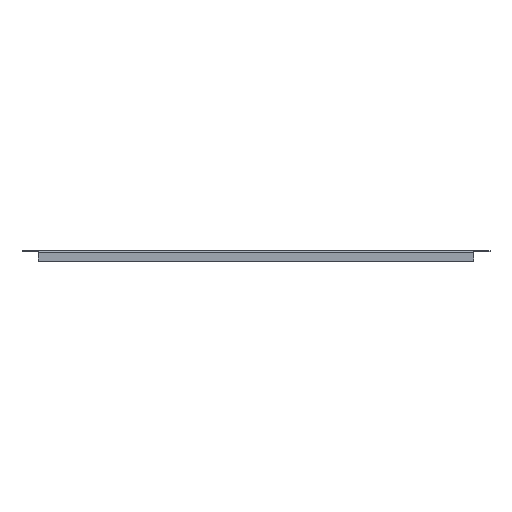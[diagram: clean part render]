
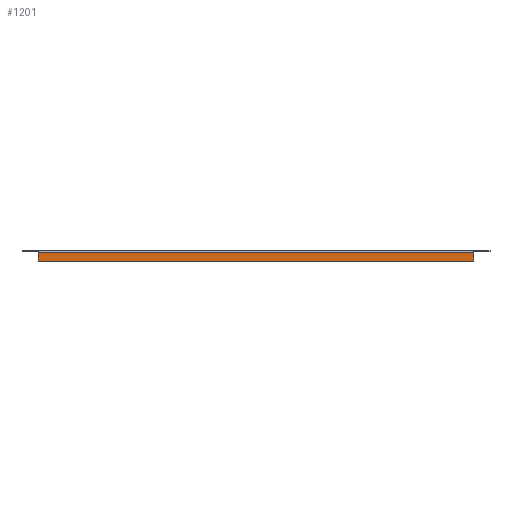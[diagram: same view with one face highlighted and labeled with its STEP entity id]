
A CAD part, front view. The second image highlights one B-rep face of the part: STEP entity #1201.
In plain terms, the highlighted planar face has unit normal (0, -1, 0).
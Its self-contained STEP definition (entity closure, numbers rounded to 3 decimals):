
#4 = ORIENTED_EDGE ( 'NONE', *, *, #1141, .F. ) ;
#12 = ORIENTED_EDGE ( 'NONE', *, *, #1149, .F. ) ;
#16 = ORIENTED_EDGE ( 'NONE', *, *, #1144, .F. ) ;
#19 = ORIENTED_EDGE ( 'NONE', *, *, #1146, .F. ) ;
#101 = VECTOR ( 'NONE', #764, 1000. ) ;
#144 = VECTOR ( 'NONE', #788, 1000. ) ;
#187 = VECTOR ( 'NONE', #779, 1000. ) ;
#188 = VECTOR ( 'NONE', #773, 1000. ) ;
#210 = AXIS2_PLACEMENT_3D ( 'NONE', #918, #919, #920 ) ;
#217 = FACE_OUTER_BOUND ( 'NONE', #408, .T. ) ;
#335 = VERTEX_POINT ( 'NONE', #651 ) ;
#339 = VERTEX_POINT ( 'NONE', #655 ) ;
#341 = VERTEX_POINT ( 'NONE', #657 ) ;
#342 = VERTEX_POINT ( 'NONE', #658 ) ;
#408 = EDGE_LOOP ( 'NONE', ( #4, #19, #12, #16 ) ) ;
#651 = CARTESIAN_POINT ( 'NONE',  ( -309.5, -224.5, -1.2 ) ) ;
#655 = CARTESIAN_POINT ( 'NONE',  ( 309.5, -224.5, -1.2 ) ) ;
#657 = CARTESIAN_POINT ( 'NONE',  ( -309.5, -224.5, -13.8 ) ) ;
#658 = CARTESIAN_POINT ( 'NONE',  ( 309.5, -224.5, -13.8 ) ) ;
#762 = LINE ( 'NONE', #763, #101 ) ;
#763 = CARTESIAN_POINT ( 'NONE',  ( 309.5, -224.5, -1.2 ) ) ;
#764 = DIRECTION ( 'NONE',  ( 1., 0., 0. ) ) ;
#771 = LINE ( 'NONE', #772, #188 ) ;
#772 = CARTESIAN_POINT ( 'NONE',  ( 309.5, -224.5, 0. ) ) ;
#773 = DIRECTION ( 'NONE',  ( 0., 0., -1. ) ) ;
#777 = LINE ( 'NONE', #778, #187 ) ;
#778 = CARTESIAN_POINT ( 'NONE',  ( -309.5, -224.5, -13.8 ) ) ;
#779 = DIRECTION ( 'NONE',  ( 0., 0., 1. ) ) ;
#786 = LINE ( 'NONE', #787, #144 ) ;
#787 = CARTESIAN_POINT ( 'NONE',  ( 309.5, -224.5, -13.8 ) ) ;
#788 = DIRECTION ( 'NONE',  ( -1., 0., 0. ) ) ;
#914 = PLANE ( 'NONE',  #210 ) ;
#918 = CARTESIAN_POINT ( 'NONE',  ( 309.5, -224.5, 0. ) ) ;
#919 = DIRECTION ( 'NONE',  ( 0., 1., 0. ) ) ;
#920 = DIRECTION ( 'NONE',  ( 0., 0., 1. ) ) ;
#1141 = EDGE_CURVE ( 'NONE', #335, #339, #762, .T. ) ;
#1144 = EDGE_CURVE ( 'NONE', #339, #342, #771, .T. ) ;
#1146 = EDGE_CURVE ( 'NONE', #341, #335, #777, .T. ) ;
#1149 = EDGE_CURVE ( 'NONE', #342, #341, #786, .T. ) ;
#1201 = ADVANCED_FACE ( 'NONE', ( #217 ), #914, .F. ) ;
